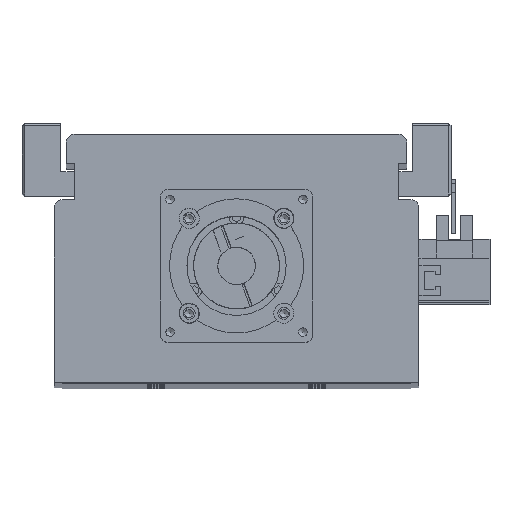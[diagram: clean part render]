
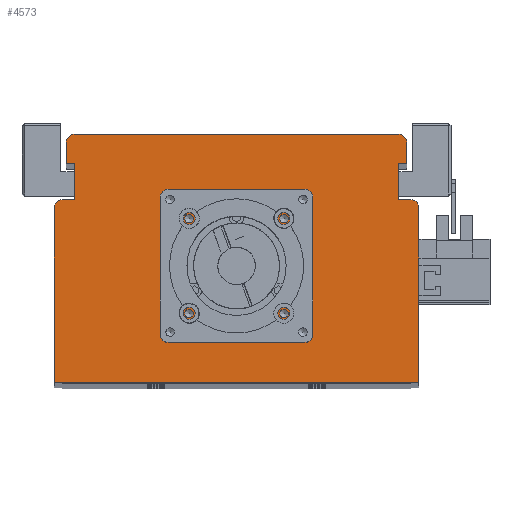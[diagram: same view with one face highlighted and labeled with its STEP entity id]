
A CAD part, top view. The second image highlights one B-rep face of the part: STEP entity #4573.
In plain terms, the highlighted planar face has unit normal (0, 0, 1).
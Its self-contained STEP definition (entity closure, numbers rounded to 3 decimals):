
#3131=CARTESIAN_POINT('',(19.321,61.5,1145.0));
#3132=VERTEX_POINT('',#3131);
#3133=CARTESIAN_POINT('',(17.7,61.5,1145.0));
#3134=DIRECTION('',(0.0,0.0,-1.0));
#3135=DIRECTION('',(1.0,0.0,0.0));
#3136=AXIS2_PLACEMENT_3D('',#3133,#3134,#3135);
#3137=CIRCLE('',#3136,1.621);
#3138=EDGE_CURVE('',#3132,#3132,#3137,.T.);
#3210=CARTESIAN_POINT('',(19.321,26.1,1145.0));
#3211=VERTEX_POINT('',#3210);
#3212=CARTESIAN_POINT('',(17.7,26.1,1145.0));
#3213=DIRECTION('',(0.0,0.0,-1.0));
#3214=DIRECTION('',(1.0,0.0,0.0));
#3215=AXIS2_PLACEMENT_3D('',#3212,#3213,#3214);
#3216=CIRCLE('',#3215,1.621);
#3217=EDGE_CURVE('',#3211,#3211,#3216,.T.);
#3289=CARTESIAN_POINT('',(-16.079,26.1,1145.0));
#3290=VERTEX_POINT('',#3289);
#3291=CARTESIAN_POINT('',(-17.7,26.1,1145.0));
#3292=DIRECTION('',(0.0,0.0,-1.0));
#3293=DIRECTION('',(1.0,0.0,0.0));
#3294=AXIS2_PLACEMENT_3D('',#3291,#3292,#3293);
#3295=CIRCLE('',#3294,1.621);
#3296=EDGE_CURVE('',#3290,#3290,#3295,.T.);
#3368=CARTESIAN_POINT('',(-16.079,61.5,1145.0));
#3369=VERTEX_POINT('',#3368);
#3370=CARTESIAN_POINT('',(-17.7,61.5,1145.0));
#3371=DIRECTION('',(0.0,0.0,-1.0));
#3372=DIRECTION('',(1.0,0.0,0.0));
#3373=AXIS2_PLACEMENT_3D('',#3370,#3371,#3372);
#3374=CIRCLE('',#3373,1.621);
#3375=EDGE_CURVE('',#3369,#3369,#3374,.T.);
#3409=CARTESIAN_POINT('',(26.5,43.8,1145.0));
#3410=VERTEX_POINT('',#3409);
#3411=CARTESIAN_POINT('',(24.5,43.8,1145.0));
#3412=DIRECTION('',(0.0,0.0,-1.0));
#3413=DIRECTION('',(1.0,0.0,0.0));
#3414=AXIS2_PLACEMENT_3D('',#3411,#3412,#3413);
#3415=CIRCLE('',#3414,2.0);
#3416=EDGE_CURVE('',#3410,#3410,#3415,.T.);
#3458=CARTESIAN_POINT('',(-22.5,43.8,1145.0));
#3459=VERTEX_POINT('',#3458);
#3460=CARTESIAN_POINT('',(-24.5,43.8,1145.0));
#3461=DIRECTION('',(0.0,0.0,-1.0));
#3462=DIRECTION('',(1.0,0.0,0.0));
#3463=AXIS2_PLACEMENT_3D('',#3460,#3461,#3462);
#3464=CIRCLE('',#3463,2.0);
#3465=EDGE_CURVE('',#3459,#3459,#3464,.T.);
#4389=CARTESIAN_POINT('',(21.05,43.8,1145.0));
#4390=VERTEX_POINT('',#4389);
#4391=CARTESIAN_POINT('',(0.0,43.8,1145.0));
#4392=DIRECTION('',(0.0,0.0,-1.0));
#4393=DIRECTION('',(-1.0,0.0,0.0));
#4394=AXIS2_PLACEMENT_3D('',#4391,#4392,#4393);
#4395=CIRCLE('',#4394,21.05);
#4396=EDGE_CURVE('',#4390,#4390,#4395,.T.);
#4413=CARTESIAN_POINT('',(0.,29.533,1145.0));
#4414=DIRECTION('',(0.0,0.0,1.0));
#4415=DIRECTION('',(1.0,0.0,0.0));
#4416=AXIS2_PLACEMENT_3D('',#4413,#4414,#4415);
#4417=PLANE('',#4416);
#4418=CARTESIAN_POINT('',(-65.,68.5,1145.0));
#4419=VERTEX_POINT('',#4418);
#4420=CARTESIAN_POINT('',(-60.5,68.5,1145.0));
#4421=VERTEX_POINT('',#4420);
#4422=CARTESIAN_POINT('',(-65.,68.5,1145.0));
#4423=DIRECTION('',(1.0,0.0,0.0));
#4424=VECTOR('',#4423,4.5);
#4425=LINE('',#4422,#4424);
#4426=EDGE_CURVE('',#4419,#4421,#4425,.T.);
#4427=ORIENTED_EDGE('',*,*,#4426,.F.);
#4428=CARTESIAN_POINT('',(-68.,65.5,1145.0));
#4429=VERTEX_POINT('',#4428);
#4430=CARTESIAN_POINT('',(-65.,65.5,1145.0));
#4431=DIRECTION('',(0.0,0.0,-1.0));
#4432=DIRECTION('',(0.0,1.0,0.0));
#4433=AXIS2_PLACEMENT_3D('',#4430,#4431,#4432);
#4434=CIRCLE('',#4433,3.);
#4435=EDGE_CURVE('',#4429,#4419,#4434,.T.);
#4436=ORIENTED_EDGE('',*,*,#4435,.F.);
#4437=CARTESIAN_POINT('',(-68.0,0.5,1145.0));
#4438=VERTEX_POINT('',#4437);
#4439=CARTESIAN_POINT('',(-68.0,0.5,1145.0));
#4440=DIRECTION('',(0.0,1.0,0.0));
#4441=VECTOR('',#4440,65.0);
#4442=LINE('',#4439,#4441);
#4443=EDGE_CURVE('',#4438,#4429,#4442,.T.);
#4444=ORIENTED_EDGE('',*,*,#4443,.F.);
#4445=CARTESIAN_POINT('',(68.0,0.5,1145.0));
#4446=VERTEX_POINT('',#4445);
#4447=CARTESIAN_POINT('',(68.0,0.5,1145.0));
#4448=DIRECTION('',(-1.0,0.0,0.0));
#4449=VECTOR('',#4448,136.0);
#4450=LINE('',#4447,#4449);
#4451=EDGE_CURVE('',#4446,#4438,#4450,.T.);
#4452=ORIENTED_EDGE('',*,*,#4451,.F.);
#4453=CARTESIAN_POINT('',(68.0,65.5,1145.0));
#4454=VERTEX_POINT('',#4453);
#4455=CARTESIAN_POINT('',(68.0,65.5,1145.0));
#4456=DIRECTION('',(0.0,-1.0,0.0));
#4457=VECTOR('',#4456,65.0);
#4458=LINE('',#4455,#4457);
#4459=EDGE_CURVE('',#4454,#4446,#4458,.T.);
#4460=ORIENTED_EDGE('',*,*,#4459,.F.);
#4461=CARTESIAN_POINT('',(65.,68.5,1145.0));
#4462=VERTEX_POINT('',#4461);
#4463=CARTESIAN_POINT('',(65.,65.5,1145.0));
#4464=DIRECTION('',(0.0,0.0,-1.0));
#4465=DIRECTION('',(1.0,0.0,0.0));
#4466=AXIS2_PLACEMENT_3D('',#4463,#4464,#4465);
#4467=CIRCLE('',#4466,3.);
#4468=EDGE_CURVE('',#4462,#4454,#4467,.T.);
#4469=ORIENTED_EDGE('',*,*,#4468,.F.);
#4470=CARTESIAN_POINT('',(60.5,68.5,1145.0));
#4471=VERTEX_POINT('',#4470);
#4472=CARTESIAN_POINT('',(60.5,68.5,1145.0));
#4473=DIRECTION('',(1.0,0.0,0.0));
#4474=VECTOR('',#4473,4.5);
#4475=LINE('',#4472,#4474);
#4476=EDGE_CURVE('',#4471,#4462,#4475,.T.);
#4477=ORIENTED_EDGE('',*,*,#4476,.F.);
#4478=CARTESIAN_POINT('',(60.5,82.,1145.));
#4479=VERTEX_POINT('',#4478);
#4480=CARTESIAN_POINT('',(60.5,82.,1145.));
#4481=DIRECTION('',(0.0,-1.0,0.0));
#4482=VECTOR('',#4481,13.5);
#4483=LINE('',#4480,#4482);
#4484=EDGE_CURVE('',#4479,#4471,#4483,.T.);
#4485=ORIENTED_EDGE('',*,*,#4484,.F.);
#4486=CARTESIAN_POINT('',(63.5,82.,1145.));
#4487=VERTEX_POINT('',#4486);
#4488=CARTESIAN_POINT('',(63.5,82.,1145.));
#4489=DIRECTION('',(-1.0,0.0,0.0));
#4490=VECTOR('',#4489,3.0);
#4491=LINE('',#4488,#4490);
#4492=EDGE_CURVE('',#4487,#4479,#4491,.T.);
#4493=ORIENTED_EDGE('',*,*,#4492,.F.);
#4494=CARTESIAN_POINT('',(63.5,90.0,1145.));
#4495=VERTEX_POINT('',#4494);
#4496=CARTESIAN_POINT('',(63.5,90.0,1145.));
#4497=DIRECTION('',(0.0,-1.0,0.0));
#4498=VECTOR('',#4497,8.);
#4499=LINE('',#4496,#4498);
#4500=EDGE_CURVE('',#4495,#4487,#4499,.T.);
#4501=ORIENTED_EDGE('',*,*,#4500,.F.);
#4502=CARTESIAN_POINT('',(60.5,93.,1145.));
#4503=VERTEX_POINT('',#4502);
#4504=CARTESIAN_POINT('',(60.5,90.0,1145.0));
#4505=DIRECTION('',(0.0,0.0,-1.0));
#4506=DIRECTION('',(1.0,0.0,0.0));
#4507=AXIS2_PLACEMENT_3D('',#4504,#4505,#4506);
#4508=CIRCLE('',#4507,3.);
#4509=EDGE_CURVE('',#4503,#4495,#4508,.T.);
#4510=ORIENTED_EDGE('',*,*,#4509,.F.);
#4511=CARTESIAN_POINT('',(-60.5,93.0,1145.));
#4512=VERTEX_POINT('',#4511);
#4513=CARTESIAN_POINT('',(-60.5,93.0,1145.));
#4514=DIRECTION('',(1.0,0.0,0.0));
#4515=VECTOR('',#4514,121.0);
#4516=LINE('',#4513,#4515);
#4517=EDGE_CURVE('',#4512,#4503,#4516,.T.);
#4518=ORIENTED_EDGE('',*,*,#4517,.F.);
#4519=CARTESIAN_POINT('',(-63.5,90.0,1145.));
#4520=VERTEX_POINT('',#4519);
#4521=CARTESIAN_POINT('',(-60.5,90.0,1145.0));
#4522=DIRECTION('',(0.0,0.0,-1.0));
#4523=DIRECTION('',(0.0,1.0,0.0));
#4524=AXIS2_PLACEMENT_3D('',#4521,#4522,#4523);
#4525=CIRCLE('',#4524,3.);
#4526=EDGE_CURVE('',#4520,#4512,#4525,.T.);
#4527=ORIENTED_EDGE('',*,*,#4526,.F.);
#4528=CARTESIAN_POINT('',(-63.5,82.,1145.));
#4529=VERTEX_POINT('',#4528);
#4530=CARTESIAN_POINT('',(-63.5,82.,1145.));
#4531=DIRECTION('',(0.0,1.0,0.0));
#4532=VECTOR('',#4531,8.);
#4533=LINE('',#4530,#4532);
#4534=EDGE_CURVE('',#4529,#4520,#4533,.T.);
#4535=ORIENTED_EDGE('',*,*,#4534,.F.);
#4536=CARTESIAN_POINT('',(-60.5,82.,1145.));
#4537=VERTEX_POINT('',#4536);
#4538=CARTESIAN_POINT('',(-60.5,82.,1145.));
#4539=DIRECTION('',(-1.0,0.0,0.0));
#4540=VECTOR('',#4539,3.);
#4541=LINE('',#4538,#4540);
#4542=EDGE_CURVE('',#4537,#4529,#4541,.T.);
#4543=ORIENTED_EDGE('',*,*,#4542,.F.);
#4544=CARTESIAN_POINT('',(-60.5,68.5,1145.0));
#4545=DIRECTION('',(0.0,1.0,0.0));
#4546=VECTOR('',#4545,13.5);
#4547=LINE('',#4544,#4546);
#4548=EDGE_CURVE('',#4421,#4537,#4547,.T.);
#4549=ORIENTED_EDGE('',*,*,#4548,.F.);
#4550=EDGE_LOOP('',(#4427,#4436,#4444,#4452,#4460,#4469,#4477,#4485,#4493,#4501,#4510,#4518,#4527,#4535,#4543,#4549));
#4551=FACE_OUTER_BOUND('',#4550,.T.);
#4552=ORIENTED_EDGE('',*,*,#3138,.T.);
#4553=EDGE_LOOP('',(#4552));
#4554=FACE_BOUND('',#4553,.T.);
#4555=ORIENTED_EDGE('',*,*,#3217,.T.);
#4556=EDGE_LOOP('',(#4555));
#4557=FACE_BOUND('',#4556,.T.);
#4558=ORIENTED_EDGE('',*,*,#3296,.T.);
#4559=EDGE_LOOP('',(#4558));
#4560=FACE_BOUND('',#4559,.T.);
#4561=ORIENTED_EDGE('',*,*,#3375,.T.);
#4562=EDGE_LOOP('',(#4561));
#4563=FACE_BOUND('',#4562,.T.);
#4564=ORIENTED_EDGE('',*,*,#3416,.T.);
#4565=EDGE_LOOP('',(#4564));
#4566=FACE_BOUND('',#4565,.T.);
#4567=ORIENTED_EDGE('',*,*,#3465,.T.);
#4568=EDGE_LOOP('',(#4567));
#4569=FACE_BOUND('',#4568,.T.);
#4570=ORIENTED_EDGE('',*,*,#4396,.T.);
#4571=EDGE_LOOP('',(#4570));
#4572=FACE_BOUND('',#4571,.T.);
#4573=ADVANCED_FACE('',(#4551,#4554,#4557,#4560,#4563,#4566,#4569,#4572),#4417,.T.);
